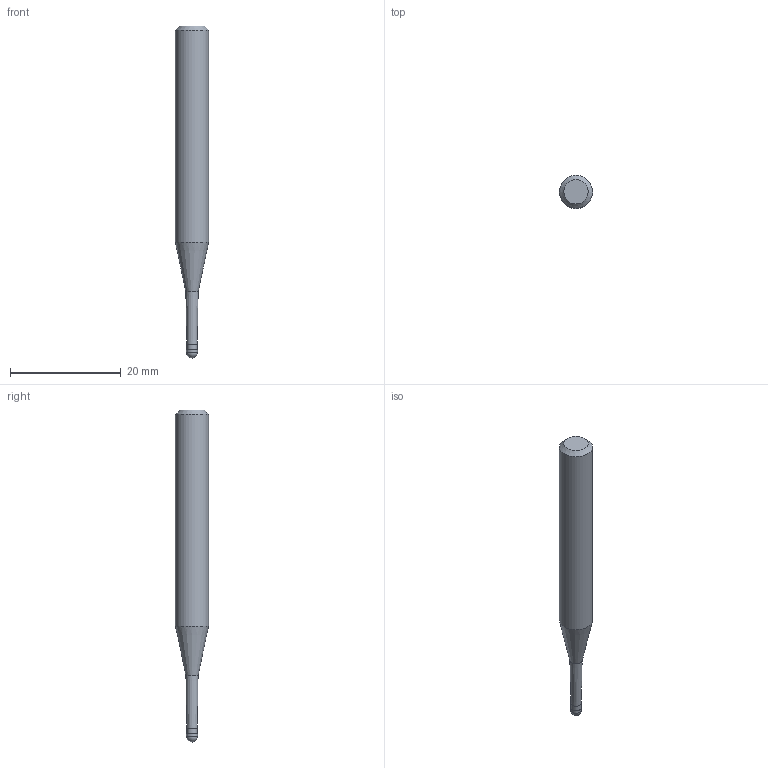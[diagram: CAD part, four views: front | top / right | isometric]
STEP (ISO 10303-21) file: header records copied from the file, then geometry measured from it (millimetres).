
FILE_DESCRIPTION((''),'2;1');
FILE_NAME('C:\Users\nsx150\AppData\Local\Temp\Mastercam 2021\E0ENTZRV18\TEMP.step','2021-09-02T09:56:47',(''),(''),'STEP Write','Mastercam 2021 ... CNC Software, Inc.','');
FILE_SCHEMA(('AUTOMOTIVE_DESIGN'));
Length unit declared in the file: millimetre
Products named in the file (1): None
Bounding box: 6 x 6 x 60 mm (x, y, z)
Volume: 1264.3 mm3; surface area: 955.5 mm2
Topology: 2 solids, 2 shells, 10 faces, 16 edges, 9 vertices
Faces by surface type: plane 3, cylinder 3, cone 3, sphere 1
Full cylindrical faces by diameter (mm): 1.875 x1, 2 x1, 6 x1
Entity records: 232 total; most frequent: DIRECTION 40, CARTESIAN_POINT 28, AXIS2_PLACEMENT_3D 20, ORIENTED_EDGE 16, EDGE_LOOP 16, STYLED_ITEM 13, ADVANCED_FACE 10, FACE_BOUND 9
